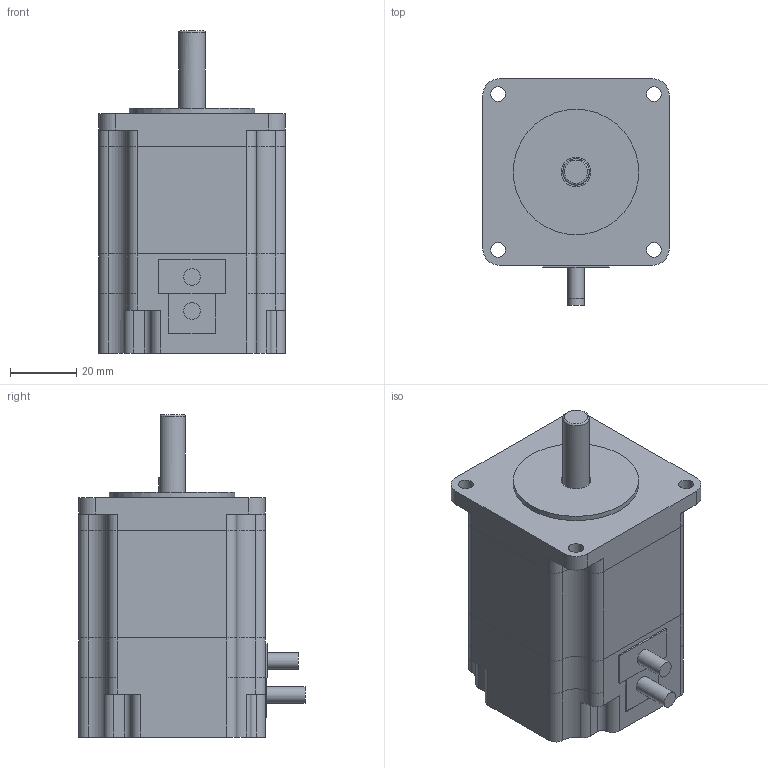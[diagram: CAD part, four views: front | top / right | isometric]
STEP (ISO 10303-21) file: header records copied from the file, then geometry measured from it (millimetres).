
FILE_DESCRIPTION(/* description */ (''),/* implementation_level */ '2;1');
FILE_NAME(/* name */ 'STP-59D3-Y17-26920.stp',/* time_stamp */ '2018-09-03T10:45:18+08:00',/* author */ (''),/* organization */ (''),/* preprocessor_version */ 'ST-DEVELOPER v11',/* originating_system */ 'SIEMENS UGS NX 6.0',/* authorisation */ '');
FILE_SCHEMA (('CONFIG_CONTROL_DESIGN'));
Length unit declared in the file: millimetre
Products named in the file (1): STP-59D3-Y17-26920
Bounding box: 56.4 x 68.4 x 97.5 mm (x, y, z)
Volume: 212710.2 mm3; surface area: 34145.4 mm2
Topology: 3 solids, 3 shells, 124 faces, 337 edges, 225 vertices
Faces by surface type: cylinder 73, plane 50, torus 1
Full cylindrical faces by diameter (mm): 4.5 x4, 5 x2, 8 x1, 9 x1, 38 x1
Entity records: 4046 total; most frequent: DIRECTION 729, CARTESIAN_POINT 711, ORIENTED_EDGE 650, EDGE_CURVE 325, AXIS2_PLACEMENT_3D 281, VERTEX_POINT 222, LINE 167, VECTOR 167
